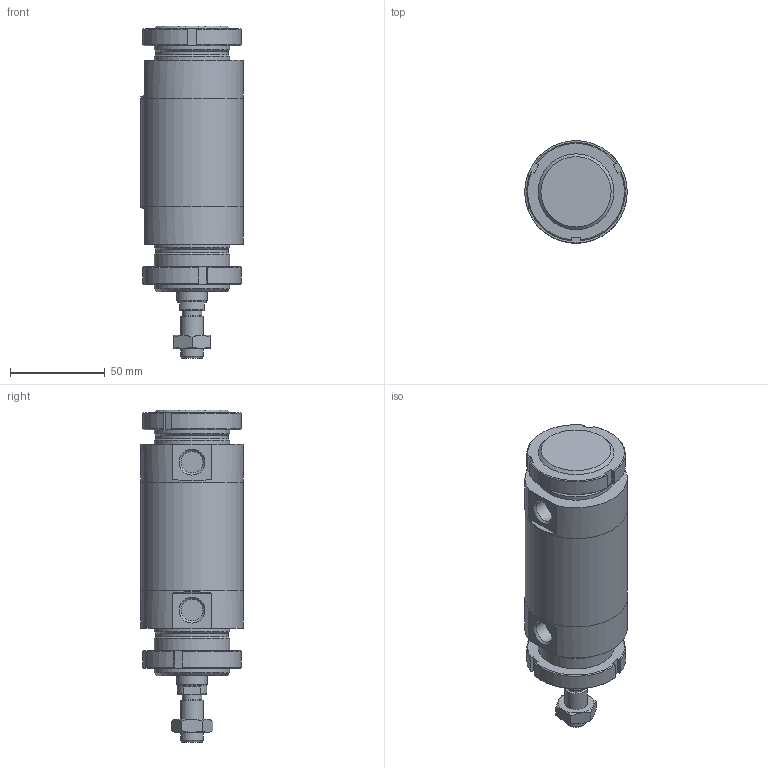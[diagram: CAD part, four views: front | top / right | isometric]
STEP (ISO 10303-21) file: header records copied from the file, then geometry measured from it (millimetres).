
FILE_DESCRIPTION(/* description */ (''),/* implementation_level */ '2;1');
FILE_NAME(/* name */ 'I:\Area Tecnica\Documenti\A-Manieri\_Inventor\12X\12X#C_###_####_#_#\12XAC_050_0015_#_#.stp',/* time_stamp */ '2015-04-28T15:19:26+02:00',/* author */ ('maniean1'),/* organization */ ('Pneumax S.p.A.'),/* preprocessor_version */ 'ST-DEVELOPER v15.2',/* originating_system */ 'Autodesk Inventor 2014',/* authorisation */ '');
FILE_SCHEMA (('AUTOMOTIVE_DESIGN { 1 0 10303 214 3 1 1 }'));
Length unit declared in the file: millimetre
Products named in the file (7): C1250_619-0015; 12X50_604; S12X50_0015; 12X_50_11; 12X50_620; G12X_050_05; 12XAC_050_0015_#_#
Bounding box: 54 x 54 x 175 mm (x, y, z)
Volume: 269338.7 mm3; surface area: 67361.6 mm2
Topology: 7 solids, 7 shells, 106 faces, 240 edges, 154 vertices
Faces by surface type: plane 52, cylinder 27, cone 27
Full cylindrical faces by diameter (mm): 10.2 x1, 11.4 x2, 12 x2, 14 x1, 15.6 x1, 16 x1, 38.2 x2, 40 x6, 50 x2, 54 x3
Entity records: 2243 total; most frequent: CARTESIAN_POINT 413, DIRECTION 382, ORIENTED_EDGE 292, AXIS2_PLACEMENT_3D 165, EDGE_CURVE 146, EDGE_LOOP 132, VERTEX_POINT 112, ADVANCED_FACE 85
